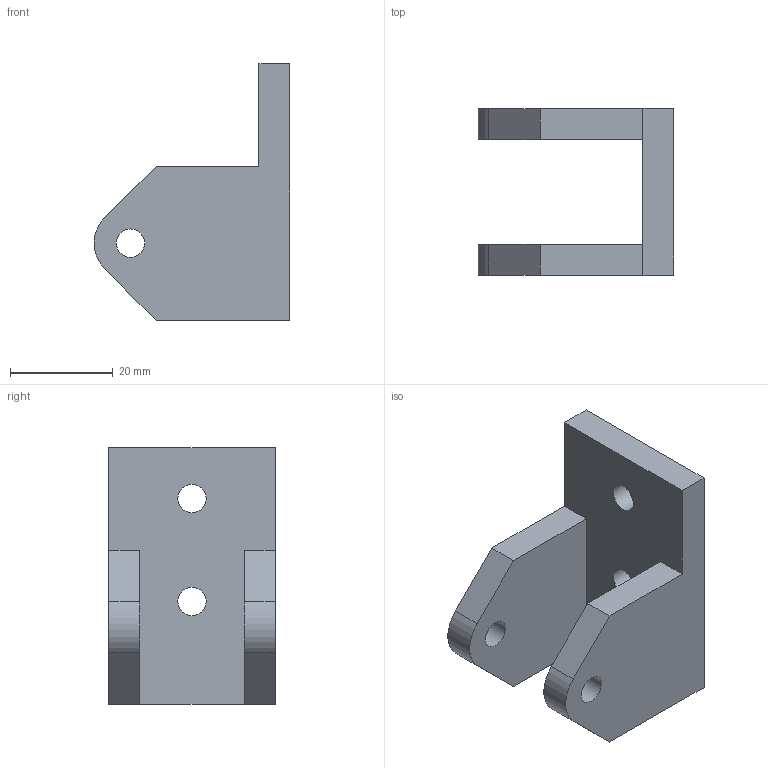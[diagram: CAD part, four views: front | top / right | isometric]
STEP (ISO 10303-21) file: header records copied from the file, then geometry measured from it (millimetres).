
FILE_DESCRIPTION(/* description */ (''),/* implementation_level */ '2;1');
FILE_NAME(/* name */ 'Back Bed Frame Corner x2 v1.step',/* time_stamp */ '2023-03-23T06:35:28-06:00',/* author */ (''),/* organization */ (''),/* preprocessor_version */ 'ST-DEVELOPER v19.2',/* originating_system */ 'Autodesk Translation Framework v11.17.0.187',/* authorisation */ '');
FILE_SCHEMA (('AUTOMOTIVE_DESIGN { 1 0 10303 214 3 1 1 }'));
Length unit declared in the file: millimetre
Products named in the file (2): Back Bed Frame Corner x2; Bed Frame Corner 2
Assembly tree (1 placements, depth 2):
  Back Bed Frame Corner x2
    Bed Frame Corner 2
Bounding box: 38.04 x 32.4 x 49.89 mm (x, y, z)
Volume: 18899.2 mm3; surface area: 8294.6 mm2
Topology: 1 solids, 1 shells, 20 faces, 54 edges, 36 vertices
Faces by surface type: plane 14, cylinder 6
Full cylindrical faces by diameter (mm): 5.5 x4
Entity records: 706 total; most frequent: CARTESIAN_POINT 113, DIRECTION 112, ORIENTED_EDGE 108, EDGE_CURVE 54, LINE 42, VECTOR 42, VERTEX_POINT 36, AXIS2_PLACEMENT_3D 35
